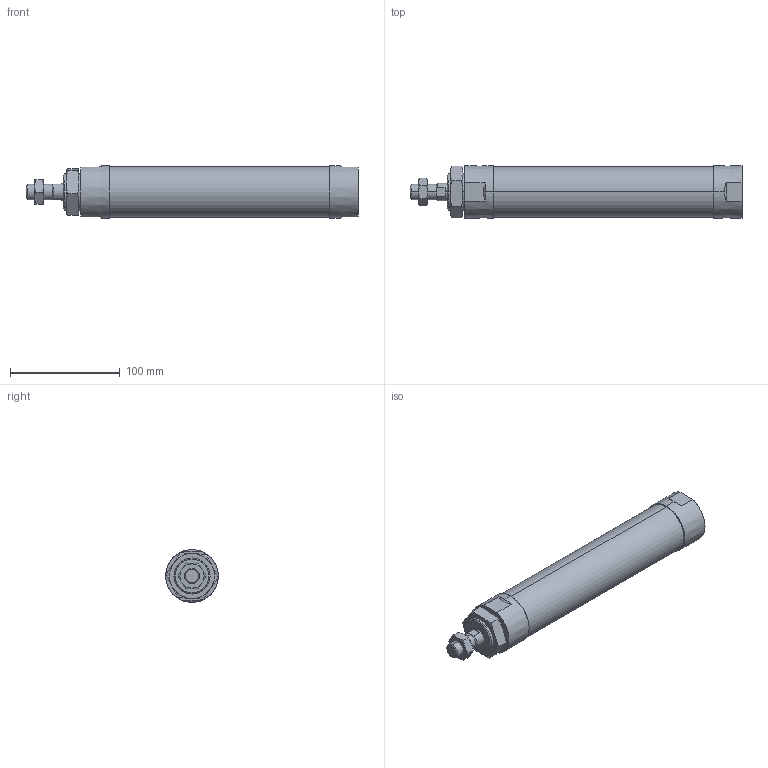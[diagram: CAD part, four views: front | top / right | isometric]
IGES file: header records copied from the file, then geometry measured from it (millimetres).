
Start section: SolidWorks IGES file using analytic representation for surfaces
Global section: file name: C:\Users\Toshiba\Desktop\JGND2-40-150-N.IGS; native system: SolidWorks 2014; preprocessor: SolidWorks 2014; author: Toshiba; date: 160804.111307; units: millimetre
Bounding box: 303 x 48 x 48 mm (x, y, z)
Surface area: 50516.4 mm2 (no closed solid volume)
Topology: 0 solids, 0 shells, 89 faces, 1702 edges, 1698 vertices
Faces by surface type: bspline 56, revolution 33
